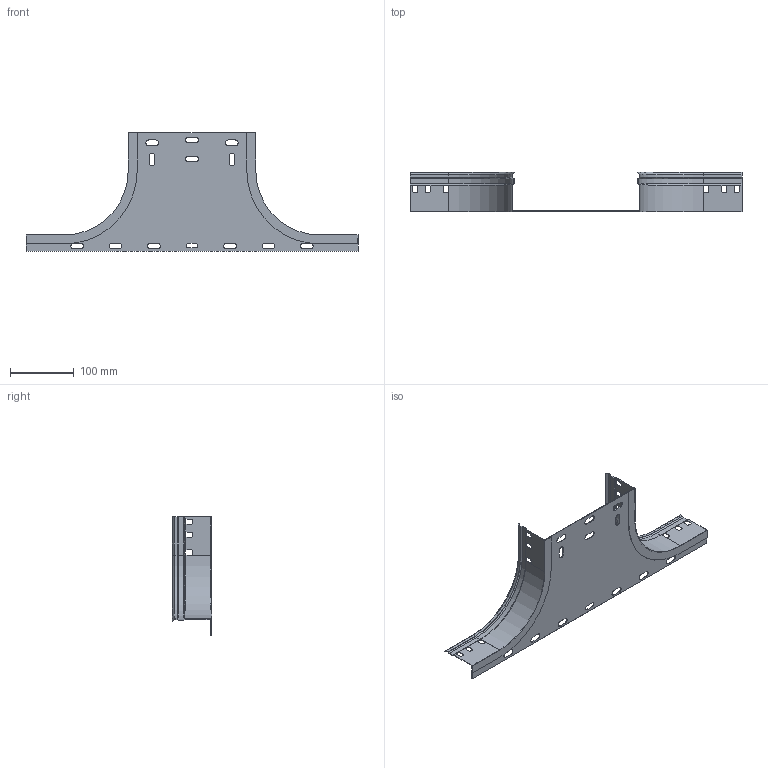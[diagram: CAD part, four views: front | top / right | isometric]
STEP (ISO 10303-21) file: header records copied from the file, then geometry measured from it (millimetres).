
FILE_DESCRIPTION (( 'STEP AP203' ), '1' );
FILE_NAME ('AS 200x60.STEP', '2020-02-12T07:42:49', ( '' ), ( '' ), 'SwSTEP 2.0', 'SolidWorks 2019', '' );
FILE_SCHEMA (( 'CONFIG_CONTROL_DESIGN' ));
Length unit declared in the file: millimetre
Products named in the file (3): ERE_BASE AS_200; AS 200x60; ERE_LATERAL AS_60
Assembly tree (3 placements, depth 2):
  AS 200x60
    ERE_BASE AS_200
    ERE_LATERAL AS_60  x2
Bounding box: 520 x 62 x 185.5 mm (x, y, z)
Volume: 79965.9 mm3; surface area: 182159.2 mm2
Topology: 3 solids, 3 shells, 218 faces, 624 edges, 388 vertices
Faces by surface type: plane 136, cylinder 68, cone 14
Entity records: 5023 total; most frequent: CARTESIAN_POINT 826, ORIENTED_EDGE 816, DIRECTION 814, EDGE_CURVE 408, VECTOR 290, LINE 290, AXIS2_PLACEMENT_3D 262, VERTEX_POINT 258
